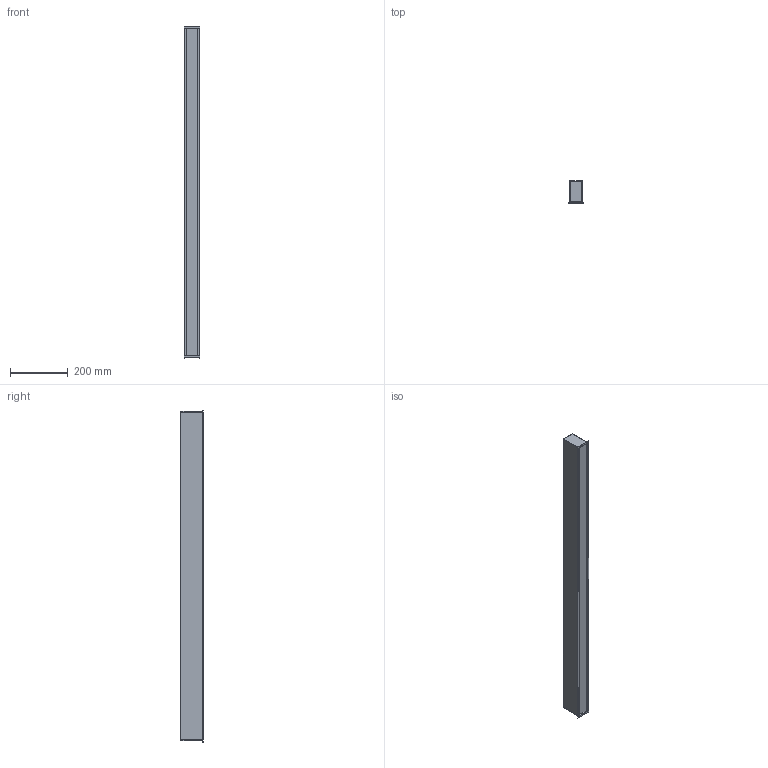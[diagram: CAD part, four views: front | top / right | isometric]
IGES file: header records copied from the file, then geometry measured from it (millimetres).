
Start section: SolidWorks IGES file using analytic representation for surfaces
Global section: file name: C:\Users\JoãoSantos\Desktop\02_3D.2D\01_2020\02_Linear\05_U45\01_Recessed\U35_RECESSED_1153.IGS; native system: SolidWorks 2020; preprocessor: SolidWorks 2020; author: JoãoSantos; date: 201021.124352; units: millimetre
Bounding box: 55 x 77.5 x 1153 mm (x, y, z)
Surface area: 582305.6 mm2 (no closed solid volume)
Topology: 0 solids, 0 shells, 86 faces, 576 edges, 568 vertices
Faces by surface type: revolution 46, bspline 40
